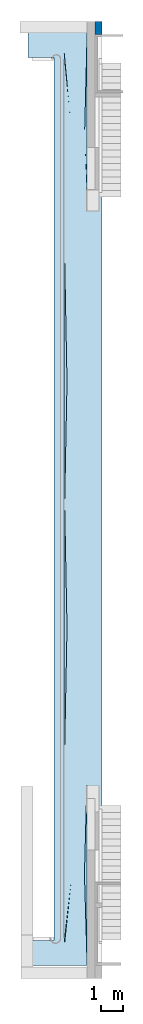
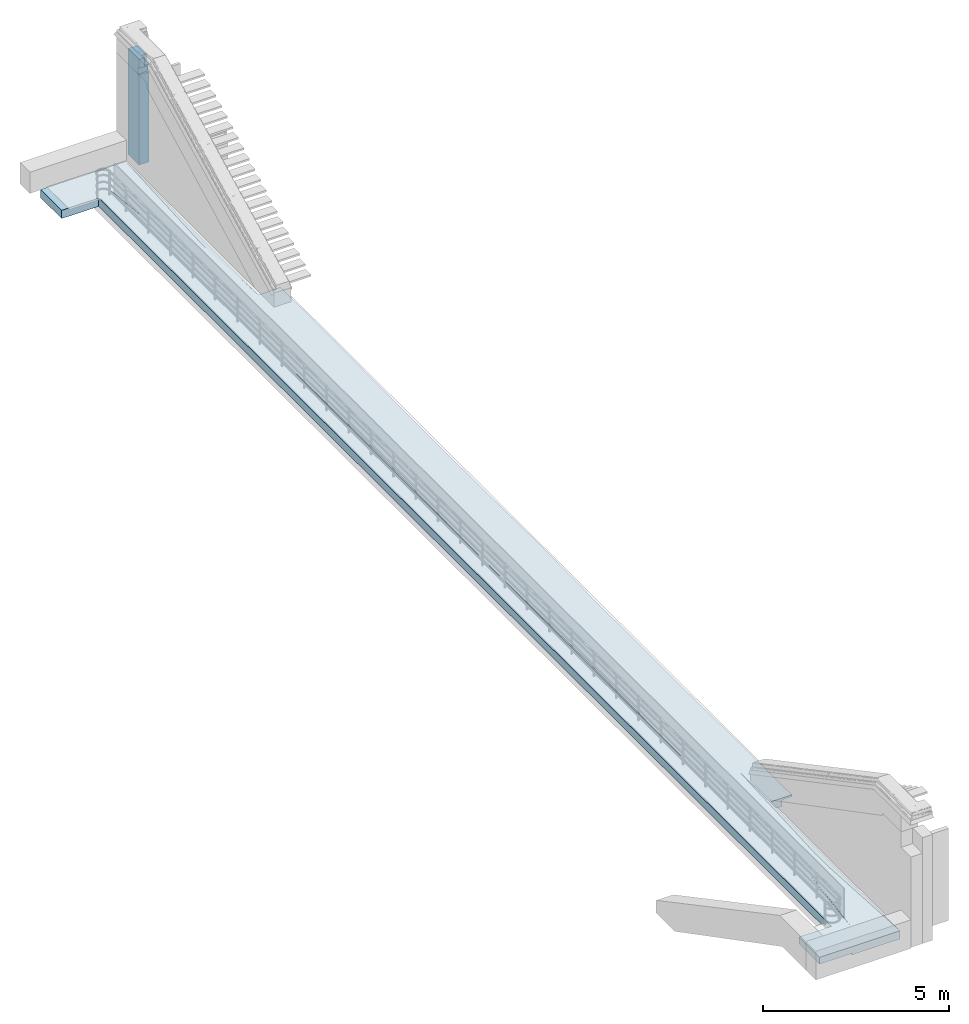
# One storey, part 4 of 5: 1 roof, 1 wall.
"""IFC2X3 building model written with IfcOpenShell, lengths in millimetres."""

from ifc_helpers import new_model, entity, si_unit, converted_unit, derived_unit, direction, frame, origin, place, context, subcontext, project, spatial, faceted_brep, material, layer, layer_set, type_object, element, save


model = new_model("IFC2X3")

# Units and contexts
model_context = context("Model", 3, precision=0.01, world=origin(), true_north=direction((6.123031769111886e-17, 1.0)))
body_context = subcontext(model_context, "Body", "Model", "MODEL_VIEW")
ifc_project = project(units=[si_unit("LENGTHUNIT", "METRE", prefix="MILLI"), si_unit("AREAUNIT", "SQUARE_METRE"), si_unit("VOLUMEUNIT", "CUBIC_METRE"), converted_unit("PLANEANGLEUNIT", "DEGREE", entity("IfcPlaneAngleMeasure", 0.017453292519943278), si_unit("PLANEANGLEUNIT", "RADIAN"), dimensions=[0, 0, 0, 0, 0, 0, 0]), si_unit("MASSUNIT", "GRAM", prefix="KILO"), derived_unit("MASSDENSITYUNIT", [(si_unit("MASSUNIT", "GRAM", prefix="KILO"), 1), (si_unit("LENGTHUNIT", "METRE"), -3)]), derived_unit("IONCONCENTRATIONUNIT", [(si_unit("MASSUNIT", "GRAM", prefix="KILO"), 1), (si_unit("LENGTHUNIT", "METRE"), -3)]), derived_unit("MOMENTOFINERTIAUNIT", [(si_unit("LENGTHUNIT", "METRE"), 4)]), si_unit("TIMEUNIT", "SECOND"), si_unit("FREQUENCYUNIT", "HERTZ"), si_unit("THERMODYNAMICTEMPERATUREUNIT", "DEGREE_CELSIUS"), derived_unit("THERMALTRANSMITTANCEUNIT", [(si_unit("MASSUNIT", "GRAM", prefix="KILO"), 1), (si_unit("THERMODYNAMICTEMPERATUREUNIT", "KELVIN"), -1), (si_unit("TIMEUNIT", "SECOND"), -3)]), derived_unit("THERMALCONDUCTANCEUNIT", [(si_unit("MASSUNIT", "GRAM", prefix="KILO"), 1), (si_unit("THERMODYNAMICTEMPERATUREUNIT", "KELVIN"), -1), (si_unit("TIMEUNIT", "SECOND"), -3), (si_unit("LENGTHUNIT", "METRE"), 1)]), derived_unit("VOLUMETRICFLOWRATEUNIT", [(si_unit("LENGTHUNIT", "METRE", prefix="DECI"), 3), (si_unit("TIMEUNIT", "SECOND"), -1)]), derived_unit("MASSFLOWRATEUNIT", [(si_unit("MASSUNIT", "GRAM", prefix="KILO"), 1), (si_unit("TIMEUNIT", "SECOND"), -1)]), derived_unit("ROTATIONALFREQUENCYUNIT", [(si_unit("TIMEUNIT", "SECOND"), -1)]), si_unit("ELECTRICCURRENTUNIT", "AMPERE"), si_unit("ELECTRICVOLTAGEUNIT", "VOLT"), si_unit("POWERUNIT", "WATT"), si_unit("FORCEUNIT", "NEWTON", prefix="KILO"), si_unit("ILLUMINANCEUNIT", "LUX"), si_unit("LUMINOUSFLUXUNIT", "LUMEN"), si_unit("LUMINOUSINTENSITYUNIT", "CANDELA"), si_unit("ENERGYUNIT", "JOULE"), derived_unit("USERDEFINED", [(si_unit("MASSUNIT", "GRAM", prefix="KILO"), -1), (si_unit("LENGTHUNIT", "METRE"), -2), (si_unit("TIMEUNIT", "SECOND"), 3), (si_unit("LUMINOUSFLUXUNIT", "LUMEN"), 1)]), derived_unit("USERDEFINED", [(si_unit("MASSUNIT", "GRAM", prefix="KILO"), 1), (si_unit("TIMEUNIT", "SECOND"), -3), (si_unit("LENGTHUNIT", "METRE"), 3), (si_unit("ELECTRICCURRENTUNIT", "AMPERE"), -2)]), derived_unit("SOUNDPOWERUNIT", [(si_unit("MASSUNIT", "GRAM", prefix="KILO"), 1), (si_unit("TIMEUNIT", "SECOND"), -3), (si_unit("LENGTHUNIT", "METRE"), 2)]), derived_unit("SOUNDPRESSUREUNIT", [(si_unit("MASSUNIT", "GRAM", prefix="KILO"), 1), (si_unit("LENGTHUNIT", "METRE"), -1), (si_unit("TIMEUNIT", "SECOND"), -2)]), derived_unit("LINEARVELOCITYUNIT", [(si_unit("LENGTHUNIT", "METRE"), 1), (si_unit("TIMEUNIT", "SECOND"), -1)]), si_unit("PRESSUREUNIT", "PASCAL"), derived_unit("USERDEFINED", [(si_unit("MASSUNIT", "GRAM", prefix="KILO"), 1), (si_unit("LENGTHUNIT", "METRE"), -2), (si_unit("TIMEUNIT", "SECOND"), -2)]), derived_unit("LINEARFORCEUNIT", [(si_unit("MASSUNIT", "GRAM", prefix="KILO"), 1), (si_unit("TIMEUNIT", "SECOND"), -2)]), derived_unit("PLANARFORCEUNIT", [(si_unit("MASSUNIT", "GRAM", prefix="KILO"), 1), (si_unit("LENGTHUNIT", "METRE"), -1), (si_unit("TIMEUNIT", "SECOND"), -2)]), derived_unit("SPECIFICHEATCAPACITYUNIT", [(si_unit("THERMODYNAMICTEMPERATUREUNIT", "KELVIN"), -1), (si_unit("LENGTHUNIT", "METRE"), 2), (si_unit("TIMEUNIT", "SECOND"), -2)]), derived_unit("HEATFLUXDENSITYUNIT", [(si_unit("MASSUNIT", "GRAM", prefix="KILO"), 1), (si_unit("TIMEUNIT", "SECOND"), -3)]), derived_unit("HEATINGVALUEUNIT", [(si_unit("LENGTHUNIT", "METRE"), 2), (si_unit("TIMEUNIT", "SECOND"), -2)]), derived_unit("VAPORPERMEABILITYUNIT", [(si_unit("LENGTHUNIT", "METRE"), -1), (si_unit("TIMEUNIT", "SECOND"), 1)]), derived_unit("DYNAMICVISCOSITYUNIT", [(si_unit("MASSUNIT", "GRAM", prefix="KILO"), 1), (si_unit("TIMEUNIT", "SECOND"), -1), (si_unit("LENGTHUNIT", "METRE"), -1)]), derived_unit("THERMALEXPANSIONCOEFFICIENTUNIT", [(si_unit("THERMODYNAMICTEMPERATUREUNIT", "KELVIN"), -1)]), derived_unit("MODULUSOFELASTICITYUNIT", [(si_unit("MASSUNIT", "GRAM", prefix="KILO"), 1), (si_unit("LENGTHUNIT", "METRE"), -1), (si_unit("TIMEUNIT", "SECOND"), -2)]), derived_unit("ISOTHERMALMOISTURECAPACITYUNIT", [(si_unit("MASSUNIT", "GRAM", prefix="KILO"), -1), (si_unit("LENGTHUNIT", "METRE"), 3)]), derived_unit("MOISTUREDIFFUSIVITYUNIT", [(si_unit("TIMEUNIT", "SECOND"), -1), (si_unit("LENGTHUNIT", "METRE"), 2)]), derived_unit("MASSPERLENGTHUNIT", [(si_unit("MASSUNIT", "GRAM", prefix="KILO"), 1), (si_unit("LENGTHUNIT", "METRE"), -1)]), derived_unit("THERMALRESISTANCEUNIT", [(si_unit("MASSUNIT", "GRAM", prefix="KILO"), -1), (si_unit("TIMEUNIT", "SECOND"), 3), (si_unit("THERMODYNAMICTEMPERATUREUNIT", "KELVIN"), 1)]), derived_unit("ACCELERATIONUNIT", [(si_unit("LENGTHUNIT", "METRE"), 1), (si_unit("TIMEUNIT", "SECOND"), -2)]), derived_unit("ANGULARVELOCITYUNIT", [(si_unit("TIMEUNIT", "SECOND"), -1), (si_unit("PLANEANGLEUNIT", "RADIAN"), 1)]), derived_unit("LINEARSTIFFNESSUNIT", [(si_unit("MASSUNIT", "GRAM", prefix="KILO"), 1), (si_unit("TIMEUNIT", "SECOND"), -2)]), derived_unit("WARPINGCONSTANTUNIT", [(si_unit("LENGTHUNIT", "METRE"), 6)]), derived_unit("LINEARMOMENTUNIT", [(si_unit("MASSUNIT", "GRAM", prefix="KILO"), 1), (si_unit("LENGTHUNIT", "METRE"), 1), (si_unit("TIMEUNIT", "SECOND"), -2)]), derived_unit("TORQUEUNIT", [(si_unit("MASSUNIT", "GRAM", prefix="KILO"), 1), (si_unit("LENGTHUNIT", "METRE"), 2), (si_unit("TIMEUNIT", "SECOND"), -2)])], contexts=[model_context])

# Site, building, storey
site_placement = place(None, origin())
site = spatial("IfcSite", under=ifc_project, at=site_placement, Name="Default", CompositionType="ELEMENT")
building_placement = place(site_placement, origin())
building = spatial("IfcBuilding", under=site, at=building_placement, Name="Eesti Rahvusraamatukogu hoone renoveerimise projekteerimistööd", CompositionType="ELEMENT")
storey_placement = place(building_placement, frame((0.0, 0.0, 11550.000000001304)))
storey = spatial("IfcBuildingStorey", under=building, at=storey_placement, Name="4. korrus", CompositionType="ELEMENT", Elevation=11550.000000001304)

# Wall
ifc_material_1 = material(Name="ol. olev materjal")
ifc_layer_1 = layer(ifc_material_1, 590.0)
ifc_layer_set_1 = layer_set([ifc_layer_1], Name="Basic Wall:ol. olev - 590mm")
wall_type = type_object("IfcWallType", Name="Basic Wall:ol. olev - 590mm", PredefinedType="STANDARD", material=ifc_layer_set_1)
wall_placement = place(storey_placement, frame((-31920.0, 48485.0, 0.0)))
element("IfcWall", 1, at=wall_placement, inside=storey, type_object=wall_type, Name="Basic Wall:ol. olev - 590mm", ObjectType="Basic Wall:ol. olev - 590mm", context=body_context, shape_type="Brep", body=[
    faceted_brep([(0.0, -295.0, 0.0), (310.18156877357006, -295.0, 0.0), (310.18156877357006, -295.0, 2960.0), (0.0, -295.0, 2960.0), (310.18156877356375, 295.0, 0.0), (0.0, 295.0, 0.0), (0.0, 295.0, 3480.0), (310.18156877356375, 295.0, 3480.0), (0.0, -235.0, 3480.0), (0.0, -295.0, 3480.0), (170.0, -295.0, 3480.0), (170.0, -165.0, 3480.0), (310.1815687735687, -165.0, 3480.0), (0.0, -235.0, 2960.0), (0.0, -235.0, 3180.0), (0.0, -295.0, 3180.0), (310.18156877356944, -235.0, 3180.0), (310.18156877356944, -235.0, 2960.0), (310.1815687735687, -165.0, 3220.0), (170.0, -165.0, 3220.0), (170.0, -235.0, 3220.0), (170.0, -295.0, 3220.0), (310.18156877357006, -295.0, 3220.0), (310.18156877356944, -235.0, 3220.0), (310.18156877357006, -295.0, 3180.0)], [[[0, 1, 2, 3]], [[4, 5, 6, 7]], [[1, 0, 5, 4]], [[7, 6, 8, 9, 10, 11, 12]], [[5, 0, 3, 13, 14, 15, 9, 8, 6]], [[16, 14, 13, 17]], [[17, 13, 3, 2]], [[18, 19, 20, 21, 22, 23]], [[19, 18, 12, 11]], [[21, 20, 19, 11, 10]], [[14, 16, 24, 15]], [[22, 24, 16, 17, 2, 1, 4, 7, 12, 18, 23]], [[22, 21, 10, 9, 15, 24]]]),
])

# Roof
ifc_material_2 = material(Name="EST. Betoon. Kohtvalu")
ifc_layer_2 = layer(ifc_material_2, 50.0)
ifc_material_3 = material(Name="EST. Soojustus. EPS 100 kaldekiht, PIR Kingspan Therma TP10 100mm")
ifc_layer_3 = layer(ifc_material_3, 220.0)
ifc_layer_set_2 = layer_set([ifc_layer_2, ifc_layer_3], Name="Basic Roof:KL-20 - käidav, betoonplaat")
roof_placement = place(storey_placement, frame((-34920.0, 6590.0, -80.0)))
element("IfcRoof", 2, at=roof_placement, inside=storey, material=ifc_layer_set_2, Name="Basic Roof:KL-20 - käidav, betoonplaat", ObjectType="Basic Roof:KL-20 - käidav, betoonplaat", ShapeType="NOTDEFINED", context=body_context, shape_type="Brep", body=[
    faceted_brep([(2640.0, 41700.0, 0.0), (2640.0, 41600.0, 0.0), (2640.0, 34538.00000000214, 0.0), (3000.0, 34538.00000000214, 0.0), (3000.0, 34091.62380504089, 0.0), (3310.181568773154, 34091.62380504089, 0.0), (3310.181568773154, 7388.360117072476, 0.0), (3000.0, 7388.36011707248, 0.0), (3000.0, 6981.000000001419, 0.0), (2640.0, 6981.000000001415, 0.0), (2640.0, 0.0, 0.0), (1150.0, 0.0, 0.0), (1150.0, 40570.00000000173, 0.0), (0.0, 40570.00000000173, 0.0), (0.0, 41600.0, 0.0), (0.0, 41700.0, 0.0), (0.0, 41700.0, 270.0), (2640.0, 41700.0, 270.0), (2640.0, 0.0, 270.0), (284.22537064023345, 0.0, 269.9417941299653), (140.0, 0.0, 270.0), (140.0, 0.0, 46.52187642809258), (1150.0, 0.0, 46.52187642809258), (2640.0, 34538.000000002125, 225.0), (3310.181568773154, 34538.000000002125, 244.97229840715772), (3310.181568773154, 34538.00000000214, 233.93106161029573), (3000.0, 34538.00000000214, 233.9310616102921), (2640.0, 41600.0, 269.3716838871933), (2640.0, 6981.000000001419, 270.0), (3000.0, 6981.000000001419, 213.97113961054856), (3310.181568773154, 6981.000000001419, 213.97113961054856), (3310.181568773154, 6981.000000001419, 270.0), (1150.0, 40570.00000000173, 270.0), (1150.0, 1108.413964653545, 46.52187642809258), (1150.0, 1108.413964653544, 270.0), (1150.0, 9600.0, 270.0), (1150.0, 20600.0, 270.0), (1150.0, 31600.0, 270.0), (177.75566441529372, 40570.00000000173, 270.0), (0.0, 40570.00000000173, 270.0), (0.0, 41600.0, 270.0), (140.0, 1108.4139646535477, 46.52187642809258), (140.0, 1108.413964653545, 270.0), (195.50400988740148, 41600.0, 270.0), (196.56129105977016, 41661.357809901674, 270.0), (158.04063981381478, 1101.0305275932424, 270.0), (2528.0956987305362, 4400.0, 190.0), (2528.0956987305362, 3773.2050807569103, 190.0), (3310.181568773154, 7104.410846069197, 270.0), (2666.8179889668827, 32898.58568957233, 248.0), (3310.181568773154, 33609.71854561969, 257.5429951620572), (2637.4787271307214, 41600.0, 268.139534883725), (2531.585266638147, 37400.0, 190.0), (1350.0, 31629.620661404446, 268.99683745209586), (1931.5852666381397, 37400.0, 190.0), (2231.5852666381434, 37100.0, 170.0), (1931.5852666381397, 36773.20508075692, 190.0), (2519.9483429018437, 36775.742548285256, 190.0), (2531.5852666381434, 36773.20508075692, 190.0), (2520.0444640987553, 36773.20508075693, 190.0), (1634.6168059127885, 1220.0755510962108, 260.0), (1634.6168059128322, 40515.075551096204, 268.67061411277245), (1602.992828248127, 40913.54489659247, 242.0), (1619.435313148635, 867.0954751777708, 240.0), (1928.0956987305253, 3773.2050807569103, 190.0), (2228.0956987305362, 4100.0, 170.0), (1928.0956987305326, 4400.0, 190.0), (1634.6168059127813, 9600.0, 264.82039325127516), (1428.5745923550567, 9600.0, 266.4401223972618), (1634.6168059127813, 20600.0, 260.0), (2640.0, 8645.249999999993, 251.0), (3310.181568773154, 9600.0, 268.27066936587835), (3310.181568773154, 9068.995597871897, 259.4327482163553), (3310.181568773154, 8030.018676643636, 259.4327482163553), (1634.6168059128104, 31629.620661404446, 260.0), (2231.5852666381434, 15100.0, 170.0), (1731.5852666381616, 15600.0, 190.0), (1731.585266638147, 14600.0, 190.0), (2731.5852666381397, 15600.0, 190.0), (2731.5852666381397, 14600.0, 190.0), (3310.181568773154, 12560.412111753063, 222.63340621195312), (3310.181568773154, 17639.587888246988, 222.63340621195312), (3310.181568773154, 20600.0, 266.6612704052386), (2731.5852666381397, 25600.0, 190.0), (1731.5852666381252, 25600.0, 190.0), (2231.5852666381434, 26100.0, 170.0), (2731.5852666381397, 26600.0, 190.0), (3310.181568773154, 23560.41211175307, 222.63340621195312), (1731.5852666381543, 26600.0, 190.0), (3310.181568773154, 28636.737680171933, 222.63340621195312), (2508.14159291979, 41600.0, 266.4397204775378), (3310.181568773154, 31629.62066140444, 266.7343011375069), (3310.181568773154, 31605.235164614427, 266.6612704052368), (311.95854799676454, 41600.0, 267.70260897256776), (3310.181568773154, 32337.83027962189, 257.7217959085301)], [[[0, 1, 2, 3, 4, 5, 6, 7, 8, 9, 10, 11, 12, 13, 14, 15]], [[0, 15, 16, 17]], [[10, 18, 19, 20, 21, 22, 11]], [[2, 23, 24, 25, 26, 3]], [[2, 1, 0, 17, 27, 23]], [[28, 9, 8, 29, 30, 31]], [[10, 9, 28, 18]], [[32, 12, 11, 22, 33, 34, 35, 36, 37]], [[13, 12, 32, 38, 39]], [[16, 15, 14, 13, 39, 40]], [[34, 33, 41, 42]], [[42, 41, 21, 20]], [[22, 21, 41, 33]], [[7, 29, 8]], [[29, 7, 6, 30]], [[26, 4, 3]], [[4, 26, 25, 5]], [[17, 16, 40, 39, 38, 43, 44]], [[34, 42, 20, 45]], [[18, 28, 46, 47]], [[28, 31, 48]], [[24, 23, 49, 50]], [[23, 27, 17, 51, 52]], [[32, 37, 53]], [[52, 54, 55]], [[55, 54, 56]], [[55, 56, 57]], [[23, 58, 59]], [[35, 34, 60]], [[56, 54, 61]], [[54, 52, 62]], [[32, 61, 62]], [[45, 63, 34]], [[60, 34, 63]], [[45, 20, 19]], [[63, 45, 19]], [[18, 63, 19]], [[63, 64, 60]], [[64, 65, 66]], [[46, 66, 65]], [[63, 18, 47]], [[46, 65, 47]], [[65, 64, 47]], [[64, 63, 47]], [[60, 67, 68]], [[60, 64, 66]], [[67, 60, 66]], [[36, 68, 69]], [[60, 68, 35]], [[36, 35, 68]], [[66, 46, 70]], [[71, 67, 70, 72]], [[67, 66, 70]], [[46, 28, 70]], [[72, 70, 73]], [[70, 28, 48, 73]], [[56, 61, 74]], [[75, 76, 77]], [[78, 76, 75]], [[79, 77, 67]], [[77, 79, 75]], [[67, 71, 80, 79]], [[78, 75, 79]], [[76, 67, 77]], [[81, 78, 79, 80]], [[37, 36, 69, 74]], [[76, 78, 69]], [[67, 76, 69]], [[78, 81, 82, 69]], [[83, 84, 69]], [[85, 83, 86]], [[84, 83, 85]], [[69, 82, 87, 83]], [[85, 86, 88]], [[89, 86, 83, 87]], [[84, 85, 88]], [[69, 84, 88, 74]], [[32, 62, 38]], [[61, 54, 62]], [[52, 51, 17, 90, 62]], [[88, 86, 74]], [[61, 32, 53]], [[74, 61, 53]], [[91, 74, 92]], [[86, 89, 92, 74]], [[62, 93, 44, 43, 38]], [[44, 93, 62, 90, 17]], [[50, 49, 94]], [[74, 91, 94, 49]], [[58, 23, 52]], [[74, 53, 37]], [[56, 74, 49]], [[68, 67, 69]], [[49, 23, 59]], [[59, 56, 49]], [[52, 55, 57]], [[58, 52, 57, 59]], [[56, 59, 57]], [[6, 5, 25, 24, 50, 94, 91, 92, 89, 87, 82, 81, 80, 71, 72, 73, 48, 31, 30]]]),
])

save(model, "model.ifc")
